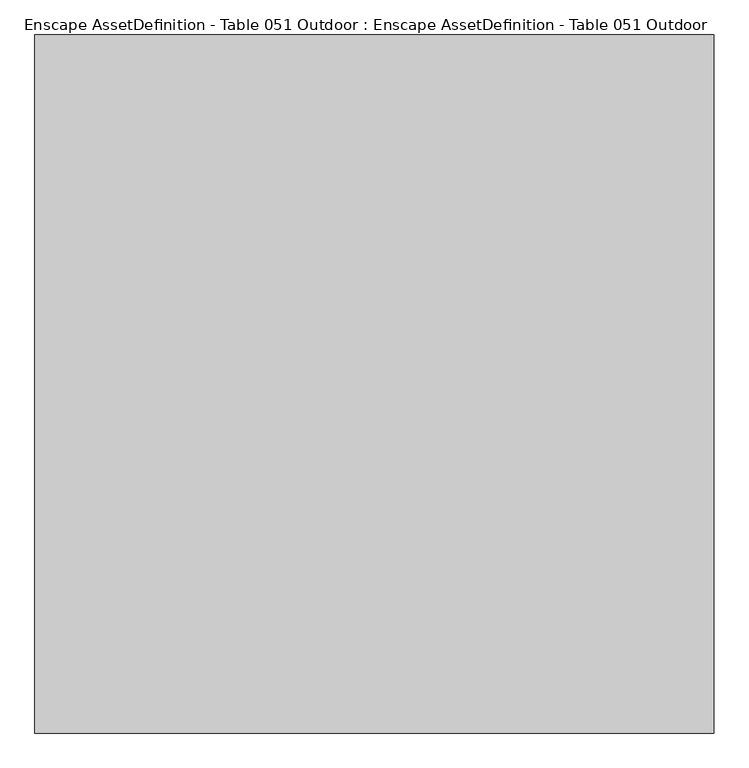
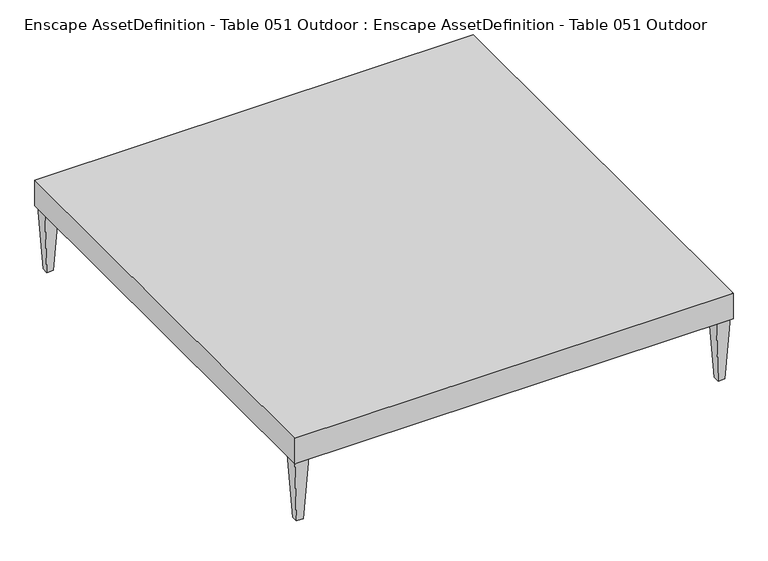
"""IFC4 building model written with IfcOpenShell, lengths in millimetres: geographic element geometry, Enscape AssetDefinition - Table 051 Outdoor : Enscape AssetDefinition - Table 051 Outdoor."""

from ifc_helpers import new_model, si_unit, origin, place, context, project, spatial, triangles, source, transform, mapped, element, save


def enscape_assetdefinition_table_051_outdoor_enscape_9c42c7a7(model_context):
    return source(origin(), model_context, "Body", "Tessellation", [
        triangles([(-589.2455011, -608.3918252, 176.7758195), (594.68405, -608.3918252, 176.7758195), (-589.2455011, 608.2383462, 176.7758195), (-589.2455011, 608.2383462, 249.9999111), (594.68405, 608.2383825, 176.7758195), (-589.2455011, -608.3918252, 249.9999111), (594.68405, -608.3918252, 249.9999111), (594.68405, 608.2383825, 249.9999111), (581.2490416, -575.1144233, 0.0), (563.3015542, -592.2569089, 0.0), (552.9852508, -602.1104499, 194.235764), (591.5653813, -565.2607733, 194.235764), (581.2490416, -592.2569089, 0.0), (563.3015542, -575.1144233, 0.0), (552.9852508, -565.2607733, 194.235764), (591.5653813, -602.1104499, 194.235764), (563.3015542, 576.5301072, 0.0), (581.2490416, 576.5301072, 0.0), (552.9852508, 566.6765662, 194.235764), (581.2490416, 593.6726292, 0.0), (591.5653813, 603.5262428, 194.235764), (552.9852508, 603.5262428, 194.235764), (591.5653813, 566.6765662, 194.235764), (563.3015542, 593.6726292, 0.0), (-557.7409198, -575.1144233, 0.0), (-547.4246163, -602.1104499, 194.235764), (-575.6884071, -592.2569089, 0.0), (-557.7409198, -592.2569089, 0.0), (-547.4246163, -565.2607733, 194.235764), (-586.0047469, -602.1104499, 194.235764), (-586.0047469, -565.2607733, 194.235764), (-575.6884071, -575.1144233, 0.0), (-547.4246163, 566.6765662, 194.235764), (-575.6884071, 576.5301072, 0.0), (-557.7409198, 593.6726292, 0.0), (-547.4246163, 603.5262428, 194.235764), (-575.6884071, 593.6726292, 0.0), (-557.7409198, 576.5301072, 0.0), (-586.0047469, 566.6765662, 194.235764), (-586.0047469, 603.5262428, 194.235764)], [[37, 39, 40], [39, 36, 40], [39, 33, 36], [38, 36, 33], [35, 37, 40], [38, 35, 36], [35, 40, 36], [37, 34, 39], [34, 38, 33], [34, 37, 35], [34, 33, 39], [34, 35, 38], [32, 30, 31], [30, 29, 31], [30, 26, 29], [28, 29, 26], [25, 32, 31], [28, 25, 29], [25, 31, 29], [32, 27, 30], [27, 28, 26], [27, 32, 25], [27, 26, 30], [27, 25, 28], [24, 19, 22], [19, 21, 22], [19, 23, 21], [18, 21, 23], [20, 24, 22], [18, 20, 21], [20, 22, 21], [24, 17, 19], [17, 18, 23], [17, 24, 20], [17, 23, 19], [17, 20, 18], [14, 11, 15], [11, 12, 15], [11, 16, 12], [13, 12, 16], [9, 14, 15], [13, 9, 12], [9, 15, 12], [14, 10, 11], [10, 13, 16], [10, 14, 9], [10, 16, 11], [10, 9, 13], [3, 6, 4], [6, 8, 4], [6, 7, 8], [2, 8, 7], [5, 3, 4], [2, 5, 8], [5, 4, 8], [3, 1, 6], [1, 2, 7], [1, 3, 5], [1, 7, 6], [1, 5, 2]]),
    ])


if __name__ == "__main__":
    model = new_model("IFC4")
    model_context = context("Model", 3, world=origin())
    ifc_project = project(units=[si_unit("LENGTHUNIT", "METRE", prefix="MILLI")], contexts=[model_context])
    site = spatial("IfcSite", under=ifc_project)
    building = spatial("IfcBuilding", under=site)
    placement = place(None, origin())
    enscape_assetdefinition_table_051_outdoor_enscape_shape = enscape_assetdefinition_table_051_outdoor_enscape_9c42c7a7(model_context)
    element("IfcGeographicElement", 1, ObjectType="Enscape AssetDefinition - Table 051 Outdoor : Enscape AssetDefinition - Table 051 Outdoor", at=placement, inside=building, context=model_context, shape_type="MappedRepresentation", body=[
        mapped(enscape_assetdefinition_table_051_outdoor_enscape_shape, transform((0.0, 0.0, 0.0), x_axis=(1.0, 0.0, 0.0), y_axis=(0.0, 1.0, 0.0), z_axis=(0.0, 0.0, 1.0))),
    ])
    save(model, "model.ifc")
